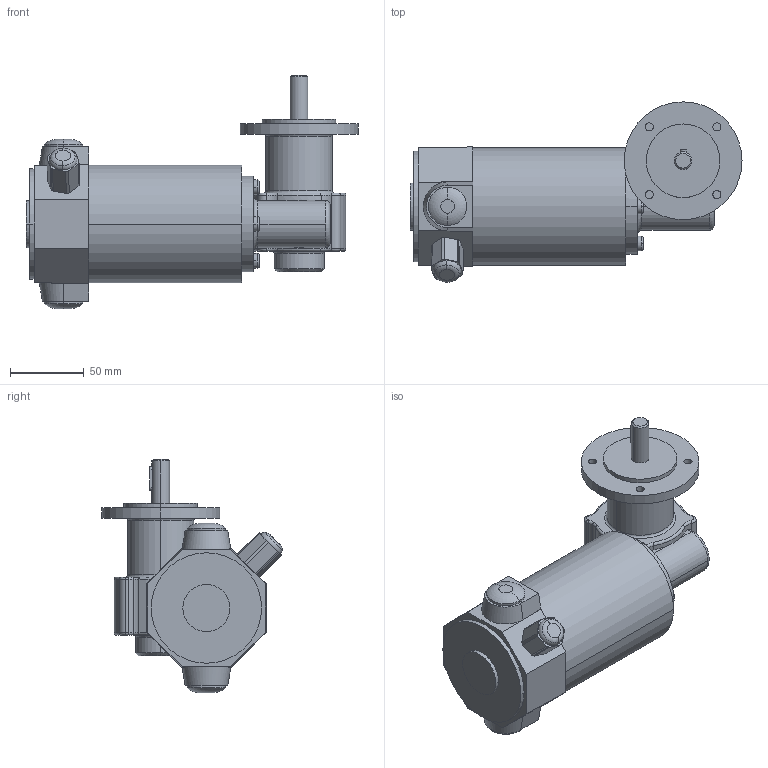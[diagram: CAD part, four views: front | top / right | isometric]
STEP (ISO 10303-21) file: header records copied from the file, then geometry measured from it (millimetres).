
FILE_DESCRIPTION(('OneSpaceDesigner STEP Export'),'2;1');
FILE_NAME('EPG12_GF127-10.stp','2008-07-02T14:50:45',(''),(''),'OneSpace Designer STEP processor (Jan. 2003) for AP214(CD)(Solid Model)','OneSpace Designer 12.01D 09-Jul-2004 (C) CoCreate Software GmbH','');
FILE_SCHEMA(('AUTOMOTIVE_DESIGN_CC2 {1 2 10303 214 -1 1 5 1}'));
Length unit declared in the file: millimetre
Products named in the file (2): EPG12_GF127-10
Assembly tree (1 placements, depth 2):
  EPG12_GF127-10
    EPG12_GF127-10
Bounding box: 225.5 x 122.39 x 158.5 mm (x, y, z)
Volume: 1077389.2 mm3; surface area: 85940.2 mm2
Topology: 1 solids, 1 shells, 217 faces, 524 edges, 326 vertices
Faces by surface type: cylinder 87, torus 74, plane 50, cone 4, bspline 2
Entity records: 8796 total; most frequent: CARTESIAN_POINT 4201, ORIENTED_EDGE 1048, DIRECTION 871, EDGE_CURVE 524, AXIS2_PLACEMENT_3D 357, VERTEX_POINT 326, EDGE_LOOP 242, CIRCLE 217
